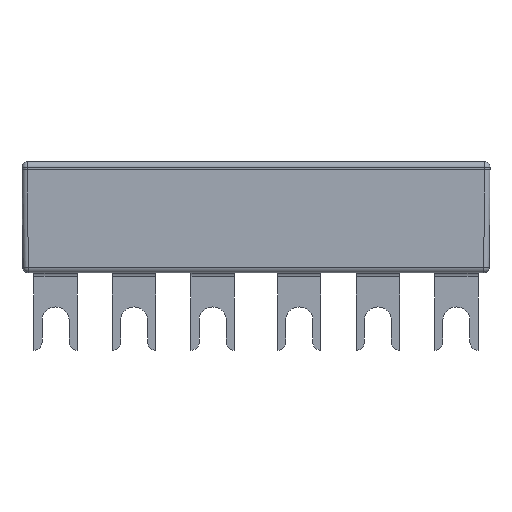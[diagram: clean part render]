
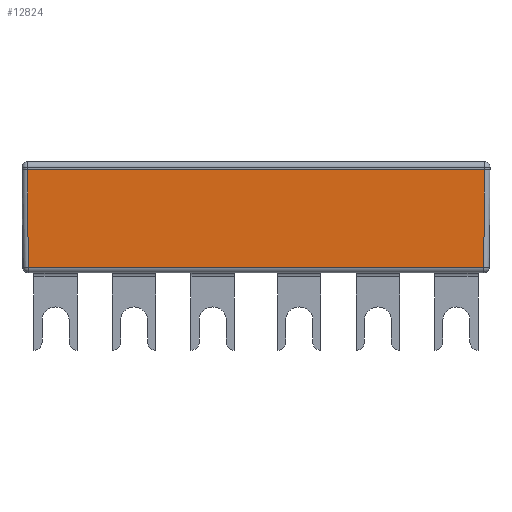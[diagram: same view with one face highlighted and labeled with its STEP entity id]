
A CAD part, front view. The second image highlights one B-rep face of the part: STEP entity #12824.
In plain terms, the highlighted planar face has unit normal (0, -1, -0.009) as drawn and (0, 1, -0.009) by its records, which use the part's own axes.
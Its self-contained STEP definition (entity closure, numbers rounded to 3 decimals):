
#10372=CARTESIAN_POINT('',(42.2,6.5,19.));
#10402=CARTESIAN_POINT('',(-42.2,6.5,19.));
#10410=DIRECTION('',(-1.,0.,0.));
#10411=VECTOR('',#10410,84.4);
#10412=CARTESIAN_POINT('',(42.2,6.5,19.));
#10413=LINE('',#10412,#10411);
#10502=DIRECTION('',(-0.009,-0.009,-1.));
#10503=VECTOR('',#10502,18.01);
#10504=CARTESIAN_POINT('',(42.2,6.5,19.));
#10505=LINE('',#10504,#10503);
#10506=DIRECTION('',(0.009,-0.009,-1.));
#10507=VECTOR('',#10506,18.01);
#10508=CARTESIAN_POINT('',(-42.2,6.5,19.));
#10509=LINE('',#10508,#10507);
#10510=DIRECTION('',(1.,0.,0.));
#10511=VECTOR('',#10510,84.086);
#10512=CARTESIAN_POINT('',(-42.043,6.343,
0.991));
#10513=LINE('',#10512,#10511);
#11080=CARTESIAN_POINT('',(42.043,6.343,
0.991));
#11081=VERTEX_POINT('',#11080);
#11089=CARTESIAN_POINT('',(-42.043,6.343,
0.991));
#11091=VERTEX_POINT('',#11089);
#11395=VERTEX_POINT('',#10372);
#11396=VERTEX_POINT('',#10402);
#12812=CARTESIAN_POINT('',(45.353,6.5,19.));
#12813=DIRECTION('',(0.,1.,-0.009));
#12814=DIRECTION('',(1.,0.,0.));
#12815=AXIS2_PLACEMENT_3D('',#12812,#12813,#12814);
#12816=PLANE('',#12815);
#12817=ORIENTED_EDGE('',*,*,#12674,.F.);
#12818=ORIENTED_EDGE('',*,*,#12627,.T.);
#12819=ORIENTED_EDGE('',*,*,#12804,.T.);
#12821=ORIENTED_EDGE('',*,*,#12820,.T.);
#12822=EDGE_LOOP('',(#12817,#12818,#12819,#12821));
#12823=FACE_OUTER_BOUND('',#12822,.F.);
#12824=ADVANCED_FACE('',(#12823),#12816,.T.);
#12627=EDGE_CURVE('',#11395,#11396,#10413,.T.);
#12674=EDGE_CURVE('',#11395,#11081,#10505,.T.);
#12804=EDGE_CURVE('',#11396,#11091,#10509,.T.);
#12820=EDGE_CURVE('',#11091,#11081,#10513,.T.);
